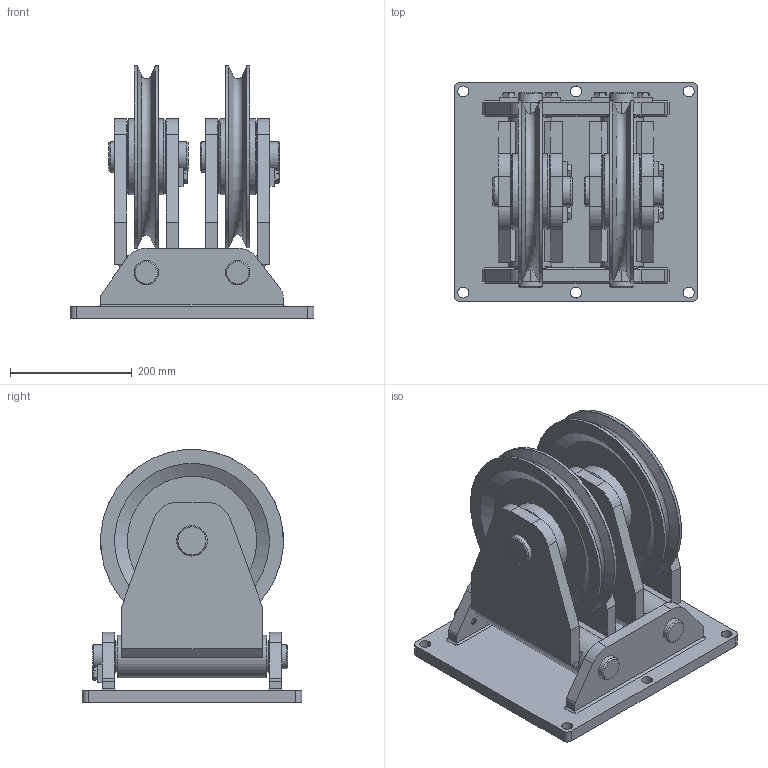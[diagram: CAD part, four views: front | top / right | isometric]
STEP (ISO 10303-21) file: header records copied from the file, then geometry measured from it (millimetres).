
FILE_DESCRIPTION(/* description */ ('Seilrolle ø300 zweifach Schwenkbar SZ 300 K'),/* implementation_level */ '2;1');
FILE_NAME(/* name */ 'Z:\Workspace\03 Seilrollen\1.410 K Seilrollen zweifach schwenkbar Kugellager\1.410.05 K Seilrolle ø300 zweifach schwenkbar SZ 300 K\1.410.05 K Seilrolle ø300 zweifach Schwenkbar SZ 300 K.stp',/* time_stamp */ '2021-10-18T13:35:24+02:00',/* author */ ('cad-user'),/* organization */ (''),/* preprocessor_version */ 'ST-DEVELOPER v18',/* originating_system */ 'Autodesk Inventor 2020',/* authorisation */ '');
FILE_SCHEMA (('AUTOMOTIVE_DESIGN { 1 0 10303 214 3 1 1 }'));
Length unit declared in the file: millimetre
Products named in the file (24): 1.410.05 K Seilrolle ø300 zweifach schwenkbar SZ 30
0 K; 1.410.05.01 Konsole Schweißteil; 1.410.05.01 Konsole Schweißteil_1; 1.410.05.02 Platte 1; 1.410.05.03 Platte 2; 1.410.05.03 Platte 2_1; 1.409.05.07 Achse 1; 1.409.05.08 Achse 2; 1.409.05.06  Schwenkkonsole Schweißteil; 1.409.05.06  Schwenkkonsole Schweißteil_1; 1.409.05.05 Rohr; 1.409.05.04 Platte 3; 1.409.05.04 Platte 3_1; 1.402.08 Seilrolle ø300 Kugellager komplett; 1.402.08 Seilrolle ø300 Kugellager; 62210-2RS1; ball_bearing_62210-2rs1_0_05; ball_bearing_62210-2rs1_0_04; ball_bearing_62210-2rs1_0_03; ball_bearing_62210-2rs1_0_02; ball_bearing_62210-2rs1_0_01; 1.409.05.09 Lasche; bb404640bp25; DIN 933 - M12  x 25
Assembly tree (41 placements, depth 4):
  1.410.05 K Seilrolle ø300 zweifach schwenkbar SZ 30
0 K
    1.410.05.01 Konsole Schweißteil
      1.410.05.01 Konsole Schweißteil_1
      1.410.05.02 Platte 1
      1.410.05.03 Platte 2
      1.410.05.03 Platte 2_1
    1.409.05.06  Schwenkkonsole Schweißteil  x2
      1.409.05.06  Schwenkkonsole Schweißteil_1
      1.409.05.05 Rohr
      1.409.05.04 Platte 3
      1.409.05.04 Platte 3_1
    1.409.05.07 Achse 1  x2
    1.409.05.08 Achse 2  x2
    1.402.08 Seilrolle ø300 Kugellager komplett  x2
      1.402.08 Seilrolle ø300 Kugellager
      62210-2RS1
        ball_bearing_62210-2rs1_0_05
        ball_bearing_62210-2rs1_0_04
        ball_bearing_62210-2rs1_0_03
        ball_bearing_62210-2rs1_0_02
        ball_bearing_62210-2rs1_0_01
    1.409.05.09 Lasche  x4
    bb404640bp25  x4
    DIN 933 - M12  x 25  x8
Bounding box: 400 x 360 x 414.65 mm (x, y, z)
Volume: 13444492.6 mm3; surface area: 2014432.7 mm2
Topology: 63 solids, 63 shells, 692 faces, 1750 edges, 1240 vertices
Faces by surface type: plane 334, cylinder 180, cone 108, torus 70
Full cylindrical faces by diameter (mm): 10.106 x8, 11.053 x8, 12 x8, 13 x8, 17.2 x8, 18 x6, 40 x10, 42 x2, 46 x8, 50 x10, 52 x4, 60.891 x8, 63.975 x8, 70 x2, 76.812 x8, 80 x2, 81.125 x8, 81.7 x16, 81.918 x8, 90 x8, 125 x4, 300 x4
Entity records: 9168 total; most frequent: DIRECTION 1620, CARTESIAN_POINT 1454, ORIENTED_EDGE 1294, AXIS2_PLACEMENT_3D 658, EDGE_CURVE 647, VERTEX_POINT 456, EDGE_LOOP 335, CIRCLE 331
